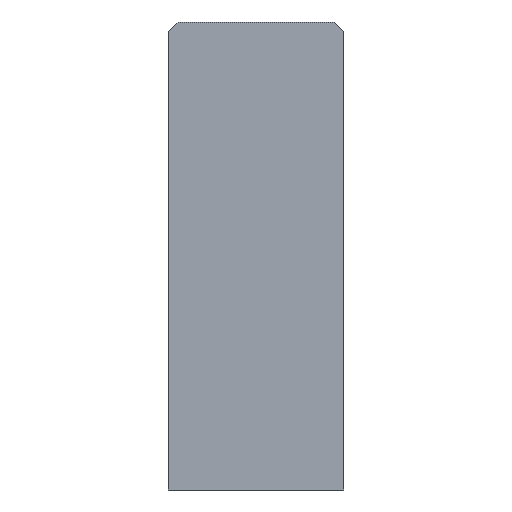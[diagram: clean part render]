
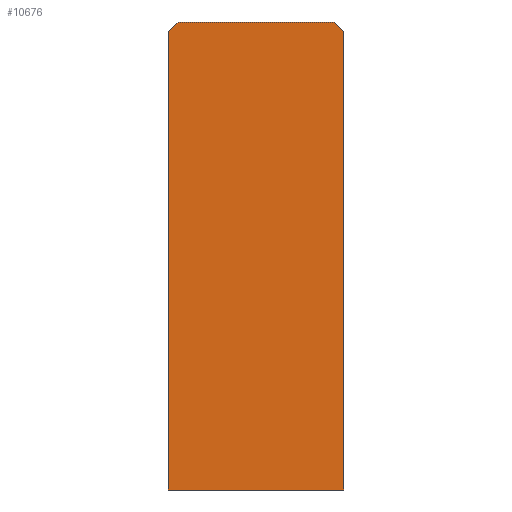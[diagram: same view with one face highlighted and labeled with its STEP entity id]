
A CAD part, left-side view. The second image highlights one B-rep face of the part: STEP entity #10676.
In plain terms, the highlighted planar face has unit normal (-1, 0, 0).
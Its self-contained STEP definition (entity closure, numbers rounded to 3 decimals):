
#374=LINE('',#38151,#692);
#378=LINE('',#38158,#696);
#384=LINE('',#38170,#702);
#386=LINE('',#38174,#704);
#387=LINE('',#38177,#705);
#389=LINE('',#38180,#707);
#692=VECTOR('',#11445,0.707);
#696=VECTOR('',#11451,8.);
#702=VECTOR('',#11461,0.707);
#704=VECTOR('',#11465,23.5);
#705=VECTOR('',#11468,9.);
#707=VECTOR('',#11472,23.5);
#992=PLANE('',#10965);
#1660=FACE_OUTER_BOUND('',#2397,.T.);
#2397=EDGE_LOOP('',(#8135,#8136,#8137,#8138,#8139,#8140));
#4178=VERTEX_POINT('',#38148);
#4179=VERTEX_POINT('',#38150);
#4181=VERTEX_POINT('',#38156);
#4185=VERTEX_POINT('',#38168);
#4186=VERTEX_POINT('',#38172);
#4187=VERTEX_POINT('',#38176);
#5530=EDGE_CURVE('',#4178,#4179,#374,.T.);
#5534=EDGE_CURVE('',#4181,#4178,#378,.T.);
#5540=EDGE_CURVE('',#4185,#4181,#384,.T.);
#5542=EDGE_CURVE('',#4186,#4185,#386,.T.);
#5543=EDGE_CURVE('',#4187,#4186,#387,.T.);
#5545=EDGE_CURVE('',#4179,#4187,#389,.T.);
#8135=ORIENTED_EDGE('',*,*,#5530,.F.);
#8136=ORIENTED_EDGE('',*,*,#5534,.F.);
#8137=ORIENTED_EDGE('',*,*,#5540,.F.);
#8138=ORIENTED_EDGE('',*,*,#5542,.F.);
#8139=ORIENTED_EDGE('',*,*,#5543,.F.);
#8140=ORIENTED_EDGE('',*,*,#5545,.F.);
#10676=ADVANCED_FACE('',(#1660),#992,.F.);
#10965=AXIS2_PLACEMENT_3D('',#38181,#11473,#11474);
#11445=DIRECTION('',(0.,-0.707,-0.707));
#11451=DIRECTION('',(0.,-1.,0.));
#11461=DIRECTION('',(0.,-0.707,0.707));
#11465=DIRECTION('',(0.,0.,1.));
#11468=DIRECTION('',(0.,1.,0.));
#11472=DIRECTION('',(0.,0.,-1.));
#11473=DIRECTION('center_axis',(1.,0.,0.));
#11474=DIRECTION('ref_axis',(0.,-1.,0.));
#38148=CARTESIAN_POINT('',(-5.5,-4.,0.));
#38150=CARTESIAN_POINT('',(-5.5,-4.5,-0.5));
#38151=CARTESIAN_POINT('',(-5.5,-6.125,-2.125));
#38156=CARTESIAN_POINT('',(-5.5,4.,0.));
#38158=CARTESIAN_POINT('',(-5.5,4.5,0.));
#38168=CARTESIAN_POINT('',(-5.5,4.5,-0.5));
#38170=CARTESIAN_POINT('',(-5.5,6.125,-2.125));
#38172=CARTESIAN_POINT('',(-5.5,4.5,-24.));
#38174=CARTESIAN_POINT('',(-5.5,4.5,-24.));
#38176=CARTESIAN_POINT('',(-5.5,-4.5,-24.));
#38177=CARTESIAN_POINT('',(-5.5,-4.5,-24.));
#38180=CARTESIAN_POINT('',(-5.5,-4.5,0.));
#38181=CARTESIAN_POINT('Origin',(-5.5,0.,-12.));
